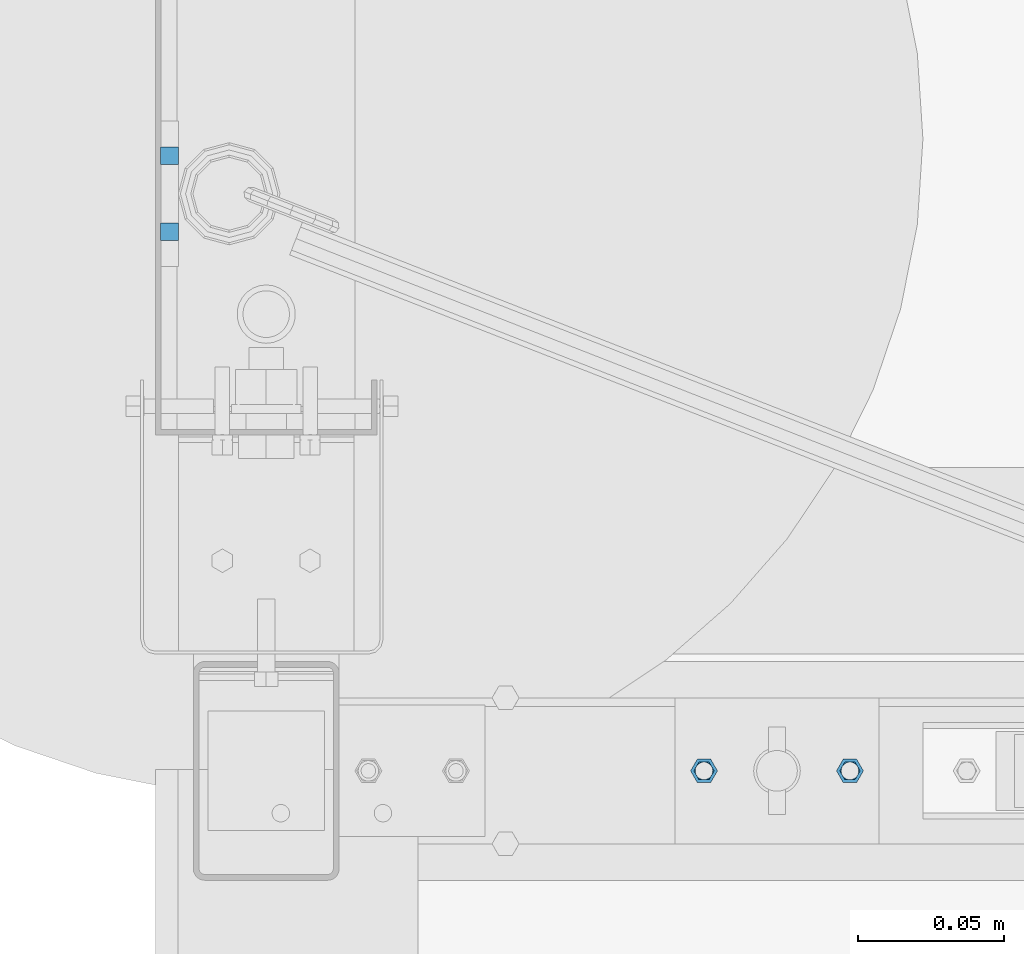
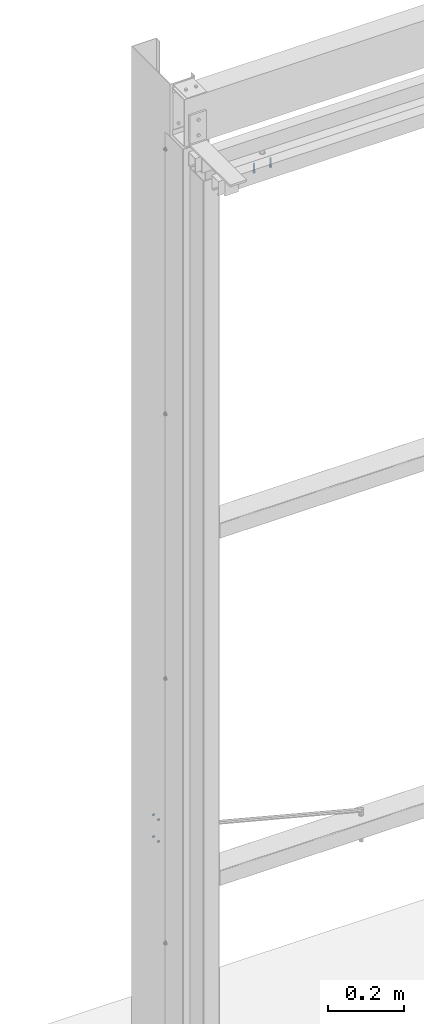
# One storey, part 34 of 91: 6 mechanical fasteners, 2 elements without a shape of their own.
"""IFC2X3 building model written with IfcOpenShell, lengths in millimetres."""

from ifc_helpers import new_model, si_unit, frame, origin_with_axes, origin_2d_with_axis, place, context, subcontext, project, spatial, polyline, circle, outline, extrude, source, transform, mapped, material, type_object, element, aggregate, save


model = new_model("IFC2X3")

# Units and contexts
model_context = context("Model", 3, precision=1e-05, world=origin_with_axes())
body_context = subcontext(model_context, "Body", "Model", "MODEL_VIEW")
ifc_project = project(units=[si_unit("LENGTHUNIT", "METRE", prefix="MILLI"), si_unit("AREAUNIT", "SQUARE_METRE"), si_unit("VOLUMEUNIT", "CUBIC_METRE"), si_unit("MASSUNIT", "GRAM", prefix="KILO"), si_unit("TIMEUNIT", "SECOND"), si_unit("PLANEANGLEUNIT", "RADIAN"), si_unit("SOLIDANGLEUNIT", "STERADIAN"), si_unit("THERMODYNAMICTEMPERATUREUNIT", "DEGREE_CELSIUS"), si_unit("LUMINOUSINTENSITYUNIT", "LUMEN")], contexts=[model_context])

# Site, building, storey
site_placement = place(None, origin_with_axes())
site = spatial("IfcSite", under=ifc_project, at=site_placement, Name="Undefined", CompositionType="ELEMENT")
building_placement = place(site_placement, origin_with_axes())
building = spatial("IfcBuilding", under=site, at=building_placement, Name="Undefined", CompositionType="ELEMENT")
storey_placement = place(building_placement, origin_with_axes())
storey = spatial("IfcBuildingStorey", under=building, at=storey_placement, Name="Undefined", CompositionType="ELEMENT", Elevation=0.0)

# Assembly, mechanical fasteners
assembly_1_placement = place(storey_placement, origin_with_axes())
assembly_1 = element("IfcElementAssembly", 1, at=assembly_1_placement, inside=storey, Name="SLIDING DOOR", AssemblyPlace="NOTDEFINED", PredefinedType="RIGID_FRAME")
ifc_material_1 = material(Name="TEK_11TPIM")
discrete_accessory_type = type_object("IfcDiscreteAccessoryType", Name="Bolt assembly")
shared_shape_1 = source(origin_with_axes(), body_context, "Body", "SweptSolid", [
    extrude(circle(Radius=3.0, at=origin_2d_with_axis()), frame((0.0, 0.0, 0.0), z_axis=(0.0, 1.0, 0.0), x_axis=(1.0, 0.0, 0.0)), (0.0, 0.0, 1.0), 2.1),
    extrude(outline(polyline([(4.61880215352, 0.0), (2.30940107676, 4.00000000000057), (-2.30940107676, 4.00000000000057), (-4.61880215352, 0.0), (-2.30940107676, -4.00000000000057), (2.30940107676, -4.00000000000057), (4.61880215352, 0.0)])), frame((0.0, -5.0, 0.0), z_axis=(0.0, 1.0, 0.0), x_axis=(1.0, 0.0, 0.0)), (0.0, 0.0, 1.0), 5.0),
    extrude(circle(Radius=3.0, at=origin_2d_with_axis()), frame((0.0, 0.0, 0.0), z_axis=(0.0, 1.0, 0.0), x_axis=(1.0, 0.0, 0.0)), (0.0, 0.0, 1.0), 25.0),
    extrude(circle(Radius=3.0, at=origin_2d_with_axis()), frame((0.0, 2.00000000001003, 0.0), z_axis=(0.0, 1.0, 0.0), x_axis=(1.0, 0.0, 0.0)), (0.0, 0.0, 1.0), 0.1),
    extrude(outline(polyline([(3.46410161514, 0.0), (1.73205080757, 3.00000000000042), (-1.73205080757, 3.00000000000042), (-3.46410161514, 0.0), (-1.73205080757, -3.00000000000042), (1.73205080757, -3.00000000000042), (3.46410161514, 0.0)])), frame((0.0, 2.10000000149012, 0.0), z_axis=(0.0, 1.0, 0.0), x_axis=(1.0, 0.0, 0.0)), (0.0, 0.0, 1.0), 0.1),
])
mechanical_fastener_1_placement = place(assembly_1_placement, frame((-116595.84, 87712.15, 3326.0), z_axis=(0.0, 1.0, 0.0), x_axis=(-1.0, 0.0, 0.0)))
mechanical_fastener_1 = element("IfcMechanicalFastener", 2, at=mechanical_fastener_1_placement, type_object=discrete_accessory_type, material=ifc_material_1, Name="Bolt assembly", NominalDiameter=6.0, NominalLength=25.0, context=body_context, shape_type="MappedRepresentation", body=[
    mapped(shared_shape_1, transform((0.0, 0.0, 0.0))),
])
mechanical_fastener_2_placement = place(assembly_1_placement, frame((-116645.84, 87712.15, 3326.0), z_axis=(0.0, -1.0, 0.0), x_axis=(1.0, 0.0, 0.0)))
mechanical_fastener_2 = element("IfcMechanicalFastener", 3, at=mechanical_fastener_2_placement, type_object=discrete_accessory_type, material=ifc_material_1, Name="Bolt assembly", NominalDiameter=6.0, NominalLength=25.0, context=body_context, shape_type="MappedRepresentation", body=[
    mapped(shared_shape_1, transform((0.0, 0.0, 0.0))),
])
aggregate(assembly_1, [mechanical_fastener_1, mechanical_fastener_2])

assembly_2_placement = place(storey_placement, origin_with_axes())
assembly_2 = element("IfcElementAssembly", 4, at=assembly_2_placement, inside=storey, Name="PLATE", AssemblyPlace="NOTDEFINED", PredefinedType="RIGID_FRAME")
ifc_material_2 = material(Name="8.8S")
shared_shape_2 = source(origin_with_axes(), body_context, "Body", "SweptSolid", [
    extrude(circle(Radius=3.0, at=origin_2d_with_axis()), frame((0.0, 0.0, 0.0), z_axis=(0.0, 1.0, 0.0), x_axis=(1.0, 0.0, 0.0)), (0.0, 0.0, 1.0), 6.1),
])
mechanical_fastener_3_placement = place(assembly_2_placement, frame((-116825.942606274, 87922.9017781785, 1127.34478745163), z_axis=(0.0, -1.0, 0.0), x_axis=(0.0, 0.0, 1.0)))
mechanical_fastener_3 = element("IfcMechanicalFastener", 5, at=mechanical_fastener_3_placement, type_object=discrete_accessory_type, material=ifc_material_2, Name="Bolt assembly", NominalDiameter=6.0, NominalLength=6.0, context=body_context, shape_type="MappedRepresentation", body=[
    mapped(shared_shape_2, transform((0.0, 0.0, 0.0))),
])
mechanical_fastener_4_placement = place(assembly_2_placement, frame((-116825.942606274, 87896.8982218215, 1127.34478745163), z_axis=(0.0, -1.0, 0.0), x_axis=(0.0, 0.0, 1.0)))
mechanical_fastener_4 = element("IfcMechanicalFastener", 6, at=mechanical_fastener_4_placement, type_object=discrete_accessory_type, material=ifc_material_2, Name="Bolt assembly", NominalDiameter=6.0, NominalLength=6.0, context=body_context, shape_type="MappedRepresentation", body=[
    mapped(shared_shape_2, transform((0.0, 0.0, 0.0))),
])
mechanical_fastener_5_placement = place(assembly_2_placement, frame((-116825.942606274, 87922.9017781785, 1197.34), z_axis=(0.0, 1.0, 0.0), x_axis=(0.0, 0.0, -1.0)))
mechanical_fastener_5 = element("IfcMechanicalFastener", 7, at=mechanical_fastener_5_placement, type_object=discrete_accessory_type, material=ifc_material_2, Name="Bolt assembly", NominalDiameter=6.0, NominalLength=6.0, context=body_context, shape_type="MappedRepresentation", body=[
    mapped(shared_shape_2, transform((0.0, 0.0, 0.0))),
])
mechanical_fastener_6_placement = place(assembly_2_placement, frame((-116825.942606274, 87896.8982218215, 1197.34), z_axis=(0.0, 1.0, 0.0), x_axis=(0.0, 0.0, -1.0)))
mechanical_fastener_6 = element("IfcMechanicalFastener", 8, at=mechanical_fastener_6_placement, type_object=discrete_accessory_type, material=ifc_material_2, Name="Bolt assembly", NominalDiameter=6.0, NominalLength=6.0, context=body_context, shape_type="MappedRepresentation", body=[
    mapped(shared_shape_2, transform((0.0, 0.0, 0.0))),
])
aggregate(assembly_2, [mechanical_fastener_3, mechanical_fastener_4, mechanical_fastener_5, mechanical_fastener_6])

save(model, "model.ifc")
